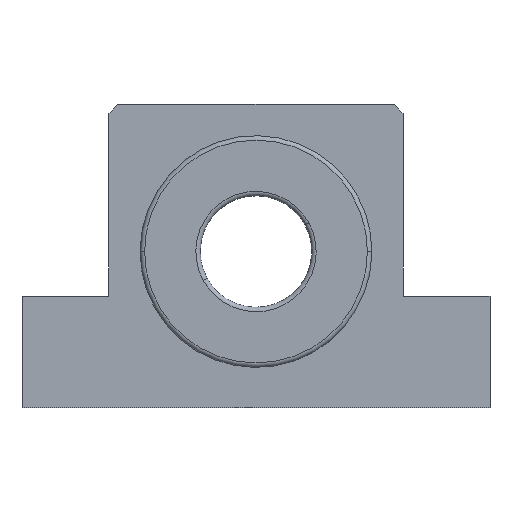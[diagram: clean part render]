
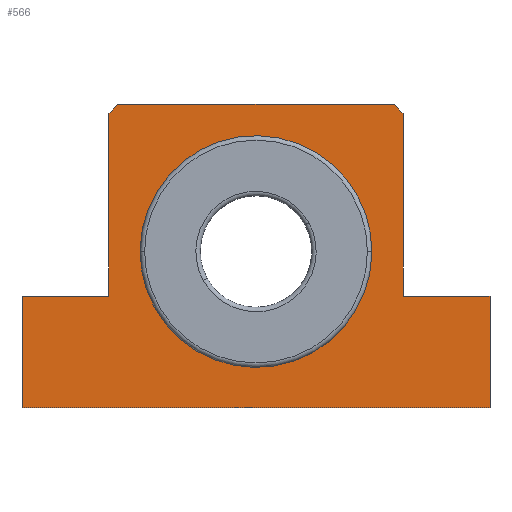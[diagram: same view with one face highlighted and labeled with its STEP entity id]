
A CAD part, left-side view. The second image highlights one B-rep face of the part: STEP entity #566.
In plain terms, the highlighted planar face has unit normal (-1, 0, 0).
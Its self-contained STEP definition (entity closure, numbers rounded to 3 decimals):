
#127=CARTESIAN_POINT('Vertex',(-15.,22.817,-12.465)) ;
#132=CARTESIAN_POINT('Axis2P3D Location',(-15.,0.,0.)) ;
#136=CARTESIAN_POINT('Vertex',(-15.,-22.817,12.465)) ;
#158=CARTESIAN_POINT('Axis2P3D Location',(-15.,0.,0.)) ;
#184=CARTESIAN_POINT('Vertex',(-15.,-52.5,-10.)) ;
#189=CARTESIAN_POINT('Line Origine',(-15.,-52.5,-22.5)) ;
#193=CARTESIAN_POINT('Vertex',(-15.,-52.5,-35.)) ;
#224=CARTESIAN_POINT('Vertex',(-15.,52.5,-35.)) ;
#229=CARTESIAN_POINT('Line Origine',(-15.,52.5,-22.5)) ;
#233=CARTESIAN_POINT('Vertex',(-15.,52.5,-10.)) ;
#260=CARTESIAN_POINT('Line Origine',(-15.,42.75,-10.)) ;
#264=CARTESIAN_POINT('Vertex',(-15.,33.,-10.)) ;
#295=CARTESIAN_POINT('Line Origine',(-15.,0.,-35.)) ;
#354=CARTESIAN_POINT('Vertex',(-15.,-33.,-10.)) ;
#357=CARTESIAN_POINT('Line Origine',(-15.,-42.75,-10.)) ;
#447=CARTESIAN_POINT('Vertex',(-15.,33.,31.)) ;
#457=CARTESIAN_POINT('Line Origine',(-15.,33.,10.5)) ;
#474=CARTESIAN_POINT('Line Origine',(-15.,32.,32.)) ;
#478=CARTESIAN_POINT('Vertex',(-15.,31.,33.)) ;
#509=CARTESIAN_POINT('Vertex',(-15.,-33.,31.)) ;
#514=CARTESIAN_POINT('Line Origine',(-15.,-33.,10.5)) ;
#533=CARTESIAN_POINT('Axis2P3D Location',(-15.,0.,0.)) ;
#538=CARTESIAN_POINT('Line Origine',(-15.,-32.,32.)) ;
#542=CARTESIAN_POINT('Vertex',(-15.,-31.,33.)) ;
#545=CARTESIAN_POINT('Line Origine',(-15.,0.,33.)) ;
#133=DIRECTION('Axis2P3D Direction',(-1.,0.,-0.)) ;
#159=DIRECTION('Axis2P3D Direction',(-1.,0.,-0.)) ;
#190=DIRECTION('Vector Direction',(0.,0.,1.)) ;
#230=DIRECTION('Vector Direction',(0.,0.,-1.)) ;
#261=DIRECTION('Vector Direction',(0.,1.,0.)) ;
#296=DIRECTION('Vector Direction',(0.,-1.,0.)) ;
#358=DIRECTION('Vector Direction',(0.,1.,0.)) ;
#458=DIRECTION('Vector Direction',(0.,0.,-1.)) ;
#475=DIRECTION('Vector Direction',(0.,0.707,-0.707)) ;
#515=DIRECTION('Vector Direction',(0.,0.,1.)) ;
#534=DIRECTION('Axis2P3D Direction',(1.,0.,0.)) ;
#535=DIRECTION('Axis2P3D XDirection',(0.,1.,0.)) ;
#539=DIRECTION('Vector Direction',(0.,-0.707,-0.707)) ;
#546=DIRECTION('Vector Direction',(0.,1.,0.)) ;
#134=AXIS2_PLACEMENT_3D('Circle Axis2P3D',#132,#133,$) ;
#160=AXIS2_PLACEMENT_3D('Circle Axis2P3D',#158,#159,$) ;
#536=AXIS2_PLACEMENT_3D('Plane Axis2P3D',#533,#534,#535) ;
#551=ORIENTED_EDGE('',*,*,#544,.F.) ;
#552=ORIENTED_EDGE('',*,*,#549,.F.) ;
#553=ORIENTED_EDGE('',*,*,#480,.F.) ;
#554=ORIENTED_EDGE('',*,*,#461,.F.) ;
#555=ORIENTED_EDGE('',*,*,#266,.F.) ;
#556=ORIENTED_EDGE('',*,*,#235,.F.) ;
#557=ORIENTED_EDGE('',*,*,#299,.F.) ;
#558=ORIENTED_EDGE('',*,*,#195,.F.) ;
#559=ORIENTED_EDGE('',*,*,#361,.F.) ;
#560=ORIENTED_EDGE('',*,*,#518,.F.) ;
#563=ORIENTED_EDGE('',*,*,#162,.T.) ;
#564=ORIENTED_EDGE('',*,*,#138,.T.) ;
#565=FACE_BOUND('',#562,.T.) ;
#191=VECTOR('Line Direction',#190,1.) ;
#231=VECTOR('Line Direction',#230,1.) ;
#262=VECTOR('Line Direction',#261,1.) ;
#297=VECTOR('Line Direction',#296,1.) ;
#359=VECTOR('Line Direction',#358,1.) ;
#459=VECTOR('Line Direction',#458,1.) ;
#476=VECTOR('Line Direction',#475,1.) ;
#516=VECTOR('Line Direction',#515,1.) ;
#540=VECTOR('Line Direction',#539,1.) ;
#547=VECTOR('Line Direction',#546,1.) ;
#566=ADVANCED_FACE('EF25(H)',(#561,#565),#537,.F.) ;
#135=CIRCLE('generated circle',#134,26.) ;
#161=CIRCLE('generated circle',#160,26.) ;
#138=EDGE_CURVE('',#137,#128,#135,.F.) ;
#162=EDGE_CURVE('',#128,#137,#161,.F.) ;
#195=EDGE_CURVE('',#185,#194,#192,.F.) ;
#235=EDGE_CURVE('',#225,#234,#232,.F.) ;
#266=EDGE_CURVE('',#234,#265,#263,.F.) ;
#299=EDGE_CURVE('',#194,#225,#298,.F.) ;
#361=EDGE_CURVE('',#355,#185,#360,.F.) ;
#461=EDGE_CURVE('',#265,#448,#460,.F.) ;
#480=EDGE_CURVE('',#448,#479,#477,.F.) ;
#518=EDGE_CURVE('',#510,#355,#517,.F.) ;
#544=EDGE_CURVE('',#543,#510,#541,.T.) ;
#549=EDGE_CURVE('',#479,#543,#548,.F.) ;
#550=EDGE_LOOP('',(#551,#552,#553,#554,#555,#556,#557,#558,#559,#560)) ;
#562=EDGE_LOOP('',(#563,#564)) ;
#561=FACE_OUTER_BOUND('',#550,.T.) ;
#192=LINE('Line',#189,#191) ;
#232=LINE('Line',#229,#231) ;
#263=LINE('Line',#260,#262) ;
#298=LINE('Line',#295,#297) ;
#360=LINE('Line',#357,#359) ;
#460=LINE('Line',#457,#459) ;
#477=LINE('Line',#474,#476) ;
#517=LINE('Line',#514,#516) ;
#541=LINE('Line',#538,#540) ;
#548=LINE('Line',#545,#547) ;
#537=PLANE('Plane',#536) ;
#128=VERTEX_POINT('',#127) ;
#137=VERTEX_POINT('',#136) ;
#185=VERTEX_POINT('',#184) ;
#194=VERTEX_POINT('',#193) ;
#225=VERTEX_POINT('',#224) ;
#234=VERTEX_POINT('',#233) ;
#265=VERTEX_POINT('',#264) ;
#355=VERTEX_POINT('',#354) ;
#448=VERTEX_POINT('',#447) ;
#479=VERTEX_POINT('',#478) ;
#510=VERTEX_POINT('',#509) ;
#543=VERTEX_POINT('',#542) ;
